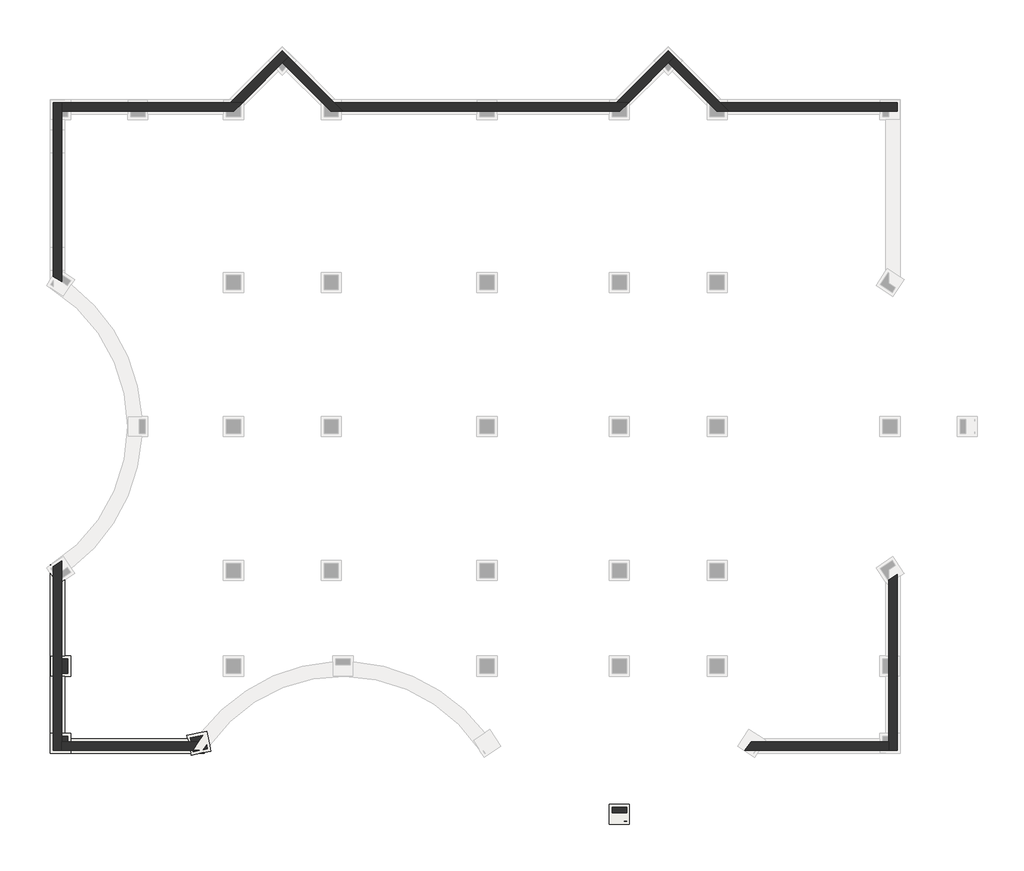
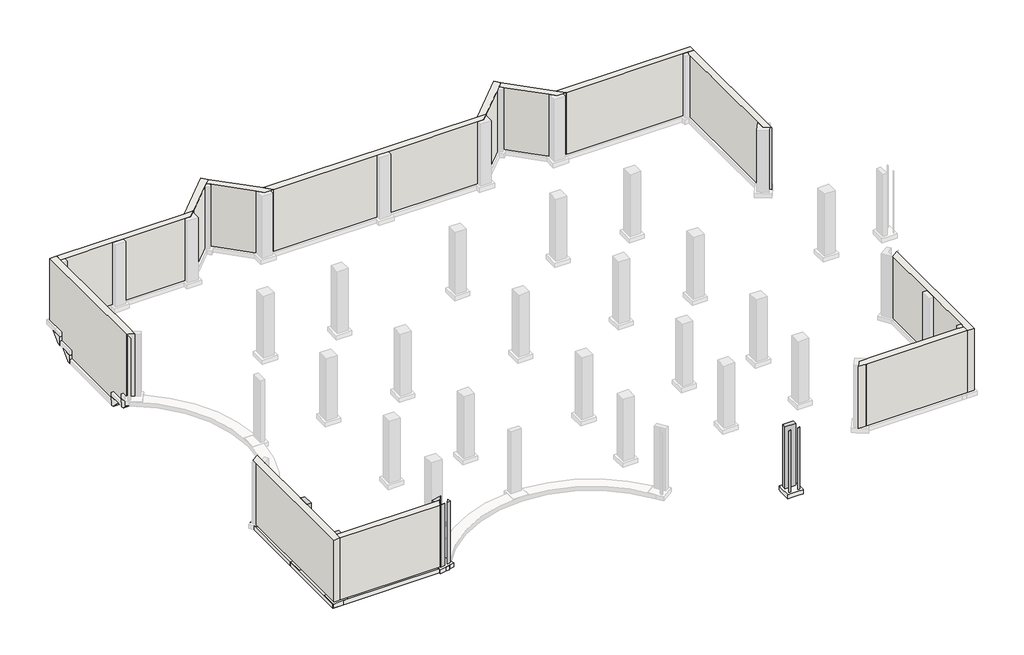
# One storey, part 1 of 3: 13 walls, 5 slabs, 4 columns, 2 footings.
"""IFC4 building model written with IfcOpenShell, lengths in millimetres."""

from ifc_helpers import new_model, si_unit, point, frame, frame_2d, origin, place, context, project, spatial, polyline, circle_curve, trimmed, segment, composite_curve, outline, extrude, faceted_brep, transform, mapped, element, save
from ifc_brep_helpers import plane_surface, revolved_surface, advanced_brep
from components import west_stepped_footing_west_stepped_footing_b48c4903

model = new_model("IFC4")

# Units and contexts
model_context = context("Model", 3, world=origin())
ifc_project = project(units=[si_unit("LENGTHUNIT", "METRE", prefix="MILLI")], contexts=[model_context])

# Site, building, storey
site = spatial("IfcSite", under=ifc_project)
building = spatial("IfcBuilding", under=site)
storey = spatial("IfcBuildingStorey", under=building, Name="00 T.O.FOOTING", Elevation=-4572.0)

# Columns
placement = place(None, origin())
element("IfcColumn", 1, ObjectType="M_Concrete-Rectangular-Column : 762 x 762mm", at=placement, inside=storey, context=model_context, shape_type="SweptSolid", body=[
    extrude(outline(polyline([(228.5, 536.575), (536.575, 536.575), (536.575, 228.5), (228.5, 228.5), (228.5, 536.575)])), frame((0.0, 0.0, -4572.0), z_axis=(0.0, 0.0, 1.0), x_axis=(1.0, 0.0, 0.0)), (0.0, 0.0, 1.0), 4572.0),
])
element("IfcColumn", 2, ObjectType="M_Concrete-Rectangular-Column : 762 x 762mm", at=placement, inside=storey, context=model_context, shape_type="SweptSolid", body=[
    extrude(outline(polyline([(536.575, 4625.575), (536.575, 3863.575), (228.5, 3863.575), (228.5, 4625.575), (536.575, 4625.575)])), frame((0.0, 0.0, -4572.0), z_axis=(0.0, 0.0, 1.0), x_axis=(1.0, 0.0, 0.0)), (0.0, 0.0, 1.0), 4572.0),
])
element("IfcColumn", 3, ObjectType="M_Concrete-Rectangular-Column : 762 x 762mm", at=placement, inside=storey, context=model_context, shape_type="SweptSolid", body=[
    extrude(outline(composite_curve([segment(polyline([(30092.5468913, -3977.7548318), (30092.5465403, -3982.4534576), (29961.8550106, -3982.4436956)]), True, "CONTINUOUS"), segment(trimmed(circle_curve(frame_2d((29712.2025257, 4799.7966199)), 8785.7880309), [point((29961.8550106, -3982.4436956))], [point((30092.5468913, -3977.7548318))], True, "CARTESIAN"), True, "CONTINUOUS")], self_intersect=False)), frame((0.0, 0.0, -4572.0), z_axis=(0.0, 0.0, 1.0), x_axis=(1.0, 0.0, 0.0)), (0.0, 0.0, 1.0), 4572.0),
    extrude(outline(composite_curve([segment(polyline([(29330.6034597, -3220.3965424), (30092.6034576, -3220.4534597), (30092.5810606, -3520.3008695)]), True, "CONTINUOUS"), segment(trimmed(circle_curve(frame_2d((29712.2025257, 4799.7966199)), 8328.7880309), [point((30092.5810606, -3520.3008695))], [point((29330.5810627, -3520.2439522))], False, "CARTESIAN"), True, "CONTINUOUS"), segment(polyline([(29330.5810627, -3520.2439522), (29330.6034597, -3220.3965424)]), True, "CONTINUOUS")], self_intersect=False)), frame((0.0, 0.0, -4572.0), z_axis=(0.0, 0.0, 1.0), x_axis=(1.0, 0.0, 0.0)), (0.0, 0.0, 1.0), 4572.0),
    extrude(outline(composite_curve([segment(polyline([(29330.5465424, -3982.3965403), (29330.5468934, -3977.6979145)]), True, "CONTINUOUS"), segment(trimmed(circle_curve(frame_2d((29712.2025257, 4799.7966199)), 8785.7880309), [point((29330.5468934, -3977.6979145))], [point((29461.2380721, -3982.4063023))], True, "CARTESIAN"), True, "CONTINUOUS"), segment(polyline([(29461.2380721, -3982.4063023), (29330.5465424, -3982.3965403)]), True, "CONTINUOUS")], self_intersect=False)), frame((0.0, 0.0, -4572.0), z_axis=(0.0, 0.0, 1.0), x_axis=(1.0, 0.0, 0.0)), (0.0, 0.0, 1.0), 4572.0),
])
element("IfcColumn", 4, ObjectType="M_Concrete-Rectangular-Column : 762 x 762mm", at=placement, inside=storey, context=model_context, shape_type="SweptSolid", body=[
    extrude(outline(polyline([(7495.2019987, -228.5), (7175.4949163, -295.2572794), (7161.5554867, -228.5), (7495.2019987, -228.5)])), frame((0.0, 0.0, -4572.0), z_axis=(0.0, 0.0, 1.0), x_axis=(1.0, 0.0, 0.0)), (0.0, 0.0, 1.0), 4572.0),
    extrude(outline(composite_curve([segment(polyline([(7019.7427206, 450.6550837), (7686.4160603, 589.8615664)]), True, "CONTINUOUS"), segment(trimmed(circle_curve(frame_2d((15090.775, -4898.9611805)), 9216.925), [point((7686.4160603, 589.8615664))], [point((7431.7379654, 228.5))], True, "CARTESIAN"), True, "CONTINUOUS"), segment(polyline([(7431.7379654, 228.5), (7066.130398, 228.5), (7019.7427206, 450.6550837)]), True, "CONTINUOUS")], self_intersect=False)), frame((0.0, 0.0, -4572.0), z_axis=(0.0, 0.0, 1.0), x_axis=(1.0, 0.0, 0.0)), (0.0, 0.0, 1.0), 4572.0),
    extrude(outline(composite_curve([segment(polyline([(7877.3918187, 71.2892242), (7921.4072794, -139.5050837), (7707.946534, -184.0773169)]), True, "CONTINUOUS"), segment(trimmed(circle_curve(frame_2d((15090.775, -4898.9611805)), 8759.925), [point((7707.946534, -184.0773169))], [point((7877.3918187, 71.2892242))], False, "CARTESIAN"), True, "CONTINUOUS")], self_intersect=False)), frame((0.0, 0.0, -4572.0), z_axis=(0.0, 0.0, 1.0), x_axis=(1.0, 0.0, 0.0)), (0.0, 0.0, 1.0), 4572.0),
])

# Footings
element("IfcFooting", 5, ObjectType="Bearing Footing - 762 x 305", at=placement, inside=storey, context=model_context, shape_type="SweptSolid", body=[
    extrude(outline(polyline([(381.0, -381.0), (-381.0, -381.0), (-381.0, 9143.3544346), (5.8948876, 8560.0884457), (381.0, 8808.9050287), (381.0, 4778.075), (-377.925, 4778.075), (-377.925, 3711.075), (381.0, 3711.075), (381.0, 689.075), (-377.925, 689.075), (-377.925, -377.925), (381.0, -377.925), (381.0, -381.0)])), frame((0.0, 0.0, -4877.0), z_axis=(0.0, 0.0, 1.0), x_axis=(1.0, 0.0, 0.0)), (0.0, 0.0, 1.0), 305.0),
    extrude(outline(polyline([(-381.0, 9583.8514106), (-381.0, 9593.198549), (-373.2506488, 9588.9917487), (-381.0, 9583.8514106)])), frame((0.0, 0.0, -4877.0), z_axis=(0.0, 0.0, 1.0), x_axis=(1.0, 0.0, 0.0)), (0.0, 0.0, 1.0), 305.0),
])
element("IfcFooting", 6, ObjectType="Bearing Footing - 762 x 305", at=placement, inside=storey, context=model_context, shape_type="SweptSolid", body=[
    extrude(outline(polyline([(381.0, -381.0), (381.0, -377.925), (689.075, -377.925), (689.075, 381.0), (6878.4981549, 381.0), (7037.609572, -381.0), (381.0, -381.0)])), frame((0.0, 0.0, -4877.0), z_axis=(0.0, 0.0, 1.0), x_axis=(1.0, 0.0, 0.0)), (0.0, 0.0, 1.0), 305.0),
    extrude(outline(polyline([(7738.5947592, -333.4668124), (7764.398549, -381.0), (7510.9537164, -381.0), (7738.5947592, -333.4668124)])), frame((0.0, 0.0, -4877.0), z_axis=(0.0, 0.0, 1.0), x_axis=(1.0, 0.0, 0.0)), (0.0, 0.0, 1.0), 305.0),
])

# Slabs
element("IfcSlab", 7, ObjectType="M_Footing-Rectangular : 1067 x 1067 x 305mm", at=placement, inside=storey, context=model_context, shape_type="Brep", body=[
    faceted_brep([(689.075, 689.075, -4572.0), (381.0, 689.075, -4572.0), (-377.925, 689.075, -4572.0), (-377.925, -377.925, -4572.0), (381.0, -377.925, -4572.0), (689.075, -377.925, -4572.0), (689.075, 381.0, -4572.0), (689.075, 689.075, -4877.0), (689.075, 381.0, -4877.0), (689.075, -377.925, -4877.0), (381.0, -377.925, -4877.0), (-377.925, -377.925, -4877.0), (-377.925, 689.075, -4877.0), (381.0, 689.075, -4877.0)], [[[0, 1, 2, 3, 4, 5, 6]], [[7, 8, 9, 10, 11, 12, 13]], [[2, 1, 0, 7, 13, 12]], [[3, 2, 12, 11]], [[5, 4, 3, 11, 10, 9]], [[0, 6, 5, 9, 8, 7]]]),
])
element("IfcSlab", 8, ObjectType="M_Footing-Rectangular : 1067 x 1067 x 305mm", at=placement, inside=storey, context=model_context, shape_type="Brep", body=[
    faceted_brep([(689.075, 4778.075, -4572.0), (381.0, 4778.075, -4572.0), (-377.925, 4778.075, -4572.0), (-377.925, 3711.075, -4572.0), (381.0, 3711.075, -4572.0), (689.075, 3711.075, -4572.0), (689.075, 4778.075, -4877.0), (689.075, 3711.075, -4877.0), (381.0, 3711.075, -4877.0), (-377.925, 3711.075, -4877.0), (-377.925, 4778.075, -4877.0), (381.0, 4778.075, -4877.0)], [[[0, 1, 2, 3, 4, 5]], [[6, 7, 8, 9, 10, 11]], [[2, 1, 0, 6, 11, 10]], [[3, 2, 10, 9]], [[5, 4, 3, 9, 8, 7]], [[0, 5, 7, 6]]]),
])
element("IfcSlab", 9, ObjectType="M_Footing-Rectangular : 1067 x 1067 x 305mm", at=placement, inside=storey, context=model_context, shape_type="Brep", body=[
    faceted_brep([(29178.0351519, -4134.885149, -4572.0), (29459.0632155, -4134.9061402, -4572.0), (29964.0070854, -4134.9438568, -4572.0), (30245.035149, -4134.9648481, -4572.0), (30245.0360729, -4122.5955108, -4572.0), (30245.0931013, -3359.107326, -4572.0), (30245.1148481, -3067.964851, -4572.0), (29178.114851, -3067.8851519, -4572.0), (29178.0931043, -3359.0276268, -4572.0), (29178.0360759, -4122.5158116, -4572.0), (29178.0351519, -4134.885149, -4877.0), (29178.0360759, -4122.5158116, -4877.0), (29178.0931043, -3359.0276268, -4877.0), (29178.114851, -3067.8851519, -4877.0), (30245.1148481, -3067.964851, -4877.0), (30245.0931013, -3359.107326, -4877.0), (30245.0360729, -4122.5955108, -4877.0), (30245.035149, -4134.9648481, -4877.0), (29964.0070854, -4134.9438568, -4877.0), (29459.0632155, -4134.9061402, -4877.0)], [[[0, 1, 2, 3, 4, 5, 6, 7, 8, 9]], [[10, 11, 12, 13, 14, 15, 16, 17, 18, 19]], [[3, 2, 1, 0, 10, 19, 18, 17]], [[6, 5, 4, 3, 17, 16, 15, 14]], [[7, 6, 14, 13]], [[0, 9, 8, 7, 13, 12, 11, 10]]]),
])
element("IfcSlab", 10, ObjectType="M_Footing-Rectangular : 1067 x 1067 x 305mm", at=placement, inside=storey, context=model_context, shape_type="Brep", body=[
    faceted_brep([(6839.2914801, 568.7645661, -4572.0), (6878.4981549, 381.0, -4572.0), (7037.609572, -381.0, -4572.0), (7057.3854339, -475.7085199, -4572.0), (7510.9537164, -381.0, -4572.0), (7738.5947592, -333.4668124, -4572.0), (7802.2589542, -320.1732425, -4572.0), (8101.8585199, -257.6145661, -4572.0), (8040.0893954, 38.2037586, -4572.0), (7883.7645661, 786.8585199, -4572.0), (7598.7213809, 727.3393268, -4572.0), (6839.2914801, 568.7645661, -4877.0), (7598.7213809, 727.3393268, -4877.0), (7883.7645661, 786.8585199, -4877.0), (8040.0893954, 38.2037586, -4877.0), (8101.8585199, -257.6145661, -4877.0), (7802.2589542, -320.1732425, -4877.0), (7738.5947592, -333.4668124, -4877.0), (7510.9537164, -381.0, -4877.0), (7057.3854339, -475.7085199, -4877.0), (7037.609572, -381.0, -4877.0), (6878.4981549, 381.0, -4877.0)], [[[0, 1, 2, 3, 4, 5, 6, 7, 8, 9, 10]], [[11, 12, 13, 14, 15, 16, 17, 18, 19, 20, 21]], [[3, 2, 1, 0, 11, 21, 20, 19]], [[7, 6, 5, 4, 3, 19, 18, 17, 16, 15]], [[9, 8, 7, 15, 14, 13]], [[0, 10, 9, 13, 12, 11]]]),
])
west_stepped_footing_west_stepped_footing_shape = west_stepped_footing_west_stepped_footing_b48c4903(model_context)
element("IfcSlab", 11, ObjectType="West Stepped Footing : West Stepped Footing", at=placement, inside=storey, context=model_context, shape_type="MappedRepresentation", body=[
    mapped(west_stepped_footing_west_stepped_footing_shape, transform((0.0, 0.0, 0.0), x_axis=(1.0, 0.0, 0.0), y_axis=(0.0, 1.0, 0.0), z_axis=(0.0, 0.0, 1.0))),
])

# Walls
element("IfcWall", 12, ObjectType="Foundation - 457mm Concrete", at=placement, inside=storey, context=model_context, shape_type="AdvancedBrep", body=[
    advanced_brep(
    [(228.5, -228.5, -4572.0), (228.5, 228.5, -4572.0), (228.5, 536.575, -4572.0), (228.5, 3863.575, -4572.0), (228.5, 4625.575, -4572.0), (228.5, 8890.7479726, -4572.0), (228.5, 9260.5379654, -4572.0), (228.5, 9817.0805193, -4572.0), (228.5, 9817.0805193, 0.0), (228.5, 9260.5379654, 0.0), (228.5, 8890.7479726, 0.0), (228.5, 4625.575, 0.0), (228.5, 3863.575, 0.0), (228.5, 536.575, 0.0), (228.5, 228.5, 0.0), (228.5, -228.5, 0.0), (-228.5, -228.5, -4572.0), (-228.5, -228.5, 0.0), (-228.5, 9189.3349146, 0.0), (-228.5, 9502.0084667, 0.0), (-228.5, 9508.5643829, 0.0), (-228.5, 9508.5643829, -4572.0), (-228.5, 9502.0084667, -4572.0), (-228.5, 9189.3349146, -4572.0)],
    [
        (0, 1),
        (1, 2),
        (2, 3),
        (3, 4),
        (4, 5),
        (5, 6),
        (6, 7),
        (7, 8),
        (8, 9),
        (9, 10),
        (10, 11),
        (11, 12),
        (12, 13),
        (13, 14),
        (14, 15),
        (15, 0),
        (16, 17),
        (17, 18),
        (18, 19),
        (19, 20),
        (20, 21),
        (21, 22),
        (22, 23),
        (23, 16),
        (0, 16),
        (21, 7, circle_curve(frame((-4898.9611805, 16919.575, -4572.0), z_axis=(0.0, 0.0, 1.0), x_axis=(1.0, 0.0, 0.0)), 8759.925)),
        (8, 20, circle_curve(frame((-4898.9611805, 16919.575, 0.0), z_axis=(0.0, 0.0, -1.0), x_axis=(1.0, 0.0, 0.0)), 8759.925)),
        (17, 15),
    ],
    [
        plane_surface(frame((228.5, 0.0, -4572.0), z_axis=(1.0, 0.0, 0.0), x_axis=(0.0, 1.0, 0.0))),
        plane_surface(frame((-228.5, 0.0, -4572.0), z_axis=(-1.0, 0.0, 0.0), x_axis=(0.0, -1.0, 0.0))),
        plane_surface(frame((228.5, 0.0, -4572.0), z_axis=(0.0, 0.0, -1.0), x_axis=(-1.0, 0.0, 0.0))),
        plane_surface(frame((228.5, 9383.5307238, 0.0), z_axis=(0.0, 0.0, 1.0), x_axis=(-1.0, 0.0, 0.0))),
        revolved_surface(polyline([(3860.963819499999, 16919.575, -4572.0), (3860.963819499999, 16919.575, 0.0)]), (-4898.9611805, 16919.575, -4572.0), (0.0, 0.0, -1.0)),
        plane_surface(frame((7554.7307238, -228.5, -4572.0), z_axis=(0.0, -1.0, 0.0), x_axis=(1.0, 0.0, 0.0))),
    ],
    [
        (0, [[1, 2, 3, 4, 5, 6, 7, 8, 9, 10, 11, 12, 13, 14, 15, 16]]),
        (1, [[17, 18, 19, 20, 21, 22, 23, 24]]),
        (2, [[-7, -6, -5, -4, -3, -2, -1, 25, -24, -23, -22, 26]]),
        (3, [[-15, -14, -13, -12, -11, -10, -9, 27, -20, -19, -18, 28]]),
        (4, [[-8, -26, -21, -27]]),
        (5, [[-16, -28, -17, -25]]),
    ],
),
])
element("IfcWall", 13, ObjectType="Foundation - 457mm Concrete", at=placement, inside=storey, context=model_context, shape_type="AdvancedBrep", body=[
    advanced_brep(
    [(228.5, 24578.6120346, -4572.0), (228.5, 24948.4020274, -4572.0), (228.5, 25169.9586136, -4572.0), (228.5, 25169.9586136, -5182.0), (228.5, 26388.9586136, -5182.0), (228.5, 26388.9586136, -5792.0), (228.5, 31401.15, -5792.0), (228.5, 31401.15, -5182.0), (228.5, 32620.15, -5182.0), (228.5, 32620.15, -4572.0), (228.5, 33302.575, -4572.0), (228.5, 33610.65, -4572.0), (228.5, 34067.65, -4572.0), (228.5, 34067.65, 0.0), (228.5, 33610.65, 0.0), (228.5, 33302.575, 0.0), (228.5, 24948.4020274, 0.0), (228.5, 24578.6120346, 0.0), (-228.5, 24865.5487488, -4572.0), (-228.5, 24865.5487488, 0.0), (-228.5, 34067.65, 0.0), (-228.5, 34067.65, -4572.0), (-228.5, 32620.15, -4572.0), (-228.5, 32620.15, -5182.0), (-228.5, 31401.15, -5182.0), (-228.5, 31401.15, -5792.0), (-228.5, 26388.9586136, -5792.0), (-228.5, 26388.9586136, -5182.0), (-228.5, 25169.9586136, -5182.0), (-228.5, 25169.9586136, -4572.0)],
    [
        (0, 1),
        (1, 2),
        (2, 3),
        (3, 4),
        (4, 5),
        (5, 6),
        (6, 7),
        (7, 8),
        (8, 9),
        (9, 10),
        (10, 11),
        (11, 12),
        (12, 13),
        (13, 14),
        (14, 15),
        (15, 16),
        (16, 17),
        (17, 0),
        (18, 19),
        (19, 20),
        (20, 21),
        (21, 22),
        (22, 23),
        (23, 24),
        (24, 25),
        (25, 26),
        (26, 27),
        (27, 28),
        (28, 29),
        (29, 18),
        (17, 19, circle_curve(frame((-4898.9611805, 16919.575, 0.0), z_axis=(0.0, 0.0, 1.0), x_axis=(1.0, 0.0, 0.0)), 9216.925)),
        (18, 0, circle_curve(frame((-4898.9611805, 16919.575, -4572.0), z_axis=(0.0, 0.0, -1.0), x_axis=(1.0, 0.0, 0.0)), 9216.925)),
        (12, 21),
        (20, 13),
        (9, 22),
        (29, 2),
        (28, 3),
        (27, 4),
        (26, 5),
        (25, 6),
        (24, 7),
        (23, 8),
    ],
    [
        plane_surface(frame((228.5, 33334.4893374, -4572.0), z_axis=(1.0, 0.0, 0.0), x_axis=(0.0, 1.0, 0.0))),
        plane_surface(frame((-228.5, 33334.4893374, -4572.0), z_axis=(-1.0, 0.0, 0.0), x_axis=(0.0, -1.0, 0.0))),
        revolved_surface(polyline([(4317.963819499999, 16919.575, 0.0), (4317.963819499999, 16919.575, -4572.0)]), (-4898.9611805, 16919.575, -4572.0), (0.0, 0.0, 1.0)),
        plane_surface(frame((0.0, 34067.65, -4572.0), z_axis=(0.0, 1.0, 0.0), x_axis=(-1.0, 0.0, 0.0))),
        plane_surface(frame((228.5, 32620.15, -4572.0), z_axis=(0.0, 0.0, -1.0), x_axis=(-1.0, 0.0, 0.0))),
        plane_surface(frame((228.5, 33839.15, 0.0), z_axis=(0.0, 0.0, 1.0), x_axis=(-1.0, 0.0, 0.0))),
        plane_surface(frame((228.5, 24455.6192762, -4572.0), z_axis=(0.0, 0.0, -1.0), x_axis=(-1.0, 0.0, 0.0))),
        plane_surface(frame((228.5, 25169.9586136, -4572.0), z_axis=(0.0, -1.0, 0.0), x_axis=(-1.0, 0.0, 0.0))),
        plane_surface(frame((228.5, 25169.9586136, -5182.0), z_axis=(0.0, 0.0, -1.0), x_axis=(-1.0, 0.0, 0.0))),
        plane_surface(frame((228.5, 26388.9586136, -5182.0), z_axis=(0.0, -1.0, 0.0), x_axis=(-1.0, 0.0, 0.0))),
        plane_surface(frame((228.5, 26388.9586136, -5792.0), z_axis=(0.0, 0.0, -1.0), x_axis=(-1.0, 0.0, 0.0))),
        plane_surface(frame((228.5, 31401.15, -5792.0), z_axis=(0.0, 1.0, 0.0), x_axis=(-1.0, 0.0, 0.0))),
        plane_surface(frame((228.5, 31401.15, -5182.0), z_axis=(0.0, 0.0, -1.0), x_axis=(-1.0, 0.0, 0.0))),
        plane_surface(frame((228.5, 32620.15, -5182.0), z_axis=(0.0, 1.0, 0.0), x_axis=(-1.0, 0.0, 0.0))),
    ],
    [
        (0, [[1, 2, 3, 4, 5, 6, 7, 8, 9, 10, 11, 12, 13, 14, 15, 16, 17, 18]]),
        (1, [[19, 20, 21, 22, 23, 24, 25, 26, 27, 28, 29, 30]]),
        (2, [[-18, 31, -19, 32]]),
        (3, [[-13, 33, -21, 34]]),
        (4, [[-12, -11, -10, 35, -22, -33]]),
        (5, [[-17, -16, -15, -14, -34, -20, -31]]),
        (6, [[-2, -1, -32, -30, 36]]),
        (7, [[-3, -36, -29, 37]]),
        (8, [[-4, -37, -28, 38]]),
        (9, [[-5, -38, -27, 39]]),
        (10, [[-6, -39, -26, 40]]),
        (11, [[-7, -40, -25, 41]]),
        (12, [[-8, -41, -24, 42]]),
        (13, [[-9, -42, -23, -35]]),
    ],
),
])
element("IfcWall", 14, ObjectType="Foundation - 457mm Concrete", at=placement, inside=storey, context=model_context, shape_type="Brep", body=[
    faceted_brep([(228.5, 33610.65, -4572.0), (536.575, 33610.65, -4572.0), (3863.575, 33610.65, -4572.0), (4625.575, 33610.65, -4572.0), (8918.575, 33610.65, -4572.0), (9329.781524, 33610.65, -4572.0), (9329.781524, 33610.65, 0.0), (8918.575, 33610.65, 0.0), (4625.575, 33610.65, 0.0), (3863.575, 33610.65, 0.0), (536.575, 33610.65, 0.0), (228.5, 33610.65, 0.0), (228.5, 34067.65, -4572.0), (228.5, 34067.65, 0.0), (9140.485926, 34067.65, 0.0), (9786.781524, 34067.65, 0.0), (9786.781524, 34067.65, -4572.0), (9140.485926, 34067.65, -4572.0), (9680.575, 33961.443476, -4572.0), (9680.575, 33961.443476, 0.0)], [[[0, 1, 2, 3, 4, 5, 6, 7, 8, 9, 10, 11]], [[12, 13, 14, 15, 16, 17]], [[5, 4, 3, 2, 1, 0, 12, 17, 16, 18]], [[11, 10, 9, 8, 7, 6, 19, 15, 14, 13]], [[0, 11, 13, 12]], [[6, 5, 18, 16, 15, 19]]]),
])
element("IfcWall", 15, ObjectType="Foundation - 457mm Concrete", at=placement, inside=storey, context=model_context, shape_type="Brep", body=[
    faceted_brep([(9786.781524, 34067.65, -4572.0), (11667.7330784, 35948.6015543, -4572.0), (11885.8887629, 36166.7572388, -4572.0), (12209.0365619, 36489.9050378, -4572.0), (12209.0365619, 36489.9050378, 0.0), (11885.8887629, 36166.7572388, 0.0), (11667.7330784, 35948.6015543, 0.0), (9786.781524, 34067.65, 0.0), (9140.485926, 34067.65, -4572.0), (9140.485926, 34067.65, 0.0), (11885.8887629, 36813.0528368, 0.0), (11885.8887629, 36813.0528368, -4572.0)], [[[0, 1, 2, 3, 4, 5, 6, 7]], [[8, 9, 10, 11]], [[3, 2, 1, 0, 8, 11]], [[7, 6, 5, 4, 10, 9]], [[0, 7, 9, 8]], [[4, 3, 11, 10]]]),
])
element("IfcWall", 16, ObjectType="Foundation - 457mm Concrete", at=placement, inside=storey, context=model_context, shape_type="Brep", body=[
    faceted_brep([(11885.8887629, 36166.7572388, -4572.0), (12103.7306845, 35948.9153172, -4572.0), (14090.575, 33962.0710017, -4572.0), (14441.9960017, 33610.65, -4572.0), (14441.9960017, 33610.65, 0.0), (14090.575, 33962.0710017, 0.0), (12103.7306845, 35948.9153172, 0.0), (11885.8887629, 36166.7572388, 0.0), (12209.0365619, 36489.9050378, -4572.0), (12209.0365619, 36489.9050378, 0.0), (14631.2915997, 34067.65, 0.0), (15088.2915997, 33610.65, 0.0), (15088.2915997, 33610.65, -4572.0), (14631.2915997, 34067.65, -4572.0), (14852.575, 33610.65, -4572.0), (14852.575, 33610.65, 0.0)], [[[0, 1, 2, 3, 4, 5, 6, 7]], [[8, 9, 10, 11, 12, 13]], [[3, 2, 1, 0, 8, 13, 12, 14]], [[7, 6, 5, 4, 15, 11, 10, 9]], [[0, 7, 9, 8]], [[4, 3, 14, 12, 11, 15]]]),
])
element("IfcWall", 17, ObjectType="Foundation - 457mm Concrete", at=placement, inside=storey, context=model_context, shape_type="Brep", body=[
    faceted_brep([(15088.2915997, 33610.65, -4572.0), (22329.575, 33610.65, -4572.0), (23091.575, 33610.65, -4572.0), (29330.575, 33610.65, -4572.0), (29742.4090498, 33610.65, -4572.0), (29742.4090498, 33610.65, 0.0), (29330.575, 33610.65, 0.0), (23091.575, 33610.65, 0.0), (22329.575, 33610.65, 0.0), (15088.2915997, 33610.65, 0.0), (14631.2915997, 34067.65, -4572.0), (14631.2915997, 34067.65, 0.0), (29553.1134518, 34067.65, 0.0), (30199.4090498, 34067.65, 0.0), (30199.4090498, 34067.65, -4572.0), (29553.1134518, 34067.65, -4572.0), (30092.575, 33960.8159502, -4572.0), (30092.575, 33960.8159502, 0.0)], [[[0, 1, 2, 3, 4, 5, 6, 7, 8, 9]], [[10, 11, 12, 13, 14, 15]], [[4, 3, 2, 1, 0, 10, 15, 14, 16]], [[9, 8, 7, 6, 5, 17, 13, 12, 11]], [[0, 9, 11, 10]], [[5, 4, 16, 14, 13, 17]]]),
])
element("IfcWall", 18, ObjectType="Foundation - 457mm Concrete", at=placement, inside=storey, context=model_context, shape_type="Brep", body=[
    faceted_brep([(30199.4090498, 34067.65, -4572.0), (32080.0468413, 35948.2877915, -4572.0), (32298.5162886, 36166.7572388, -4572.0), (32621.6640876, 36489.9050378, -4572.0), (32621.6640876, 36489.9050378, 0.0), (32298.5162886, 36166.7572388, 0.0), (32080.0468413, 35948.2877915, 0.0), (30199.4090498, 34067.65, 0.0), (29553.1134518, 34067.65, -4572.0), (29553.1134518, 34067.65, 0.0), (32298.5162886, 36813.0528368, 0.0), (32298.5162886, 36813.0528368, -4572.0)], [[[0, 1, 2, 3, 4, 5, 6, 7]], [[8, 9, 10, 11]], [[3, 2, 1, 0, 8, 11]], [[7, 6, 5, 4, 10, 9]], [[0, 7, 9, 8]], [[4, 3, 11, 10]]]),
])
element("IfcWall", 19, ObjectType="Foundation - 457mm Concrete", at=placement, inside=storey, context=model_context, shape_type="Brep", body=[
    faceted_brep([(32298.5162886, 36166.7572388, -4572.0), (32516.0444474, 35949.2290801, -4572.0), (34502.575, 33962.6985274, -4572.0), (34854.6235274, 33610.65, -4572.0), (34854.6235274, 33610.65, 0.0), (34502.575, 33962.6985274, 0.0), (32516.0444474, 35949.2290801, 0.0), (32298.5162886, 36166.7572388, 0.0), (32621.6640876, 36489.9050378, -4572.0), (32621.6640876, 36489.9050378, 0.0), (35043.9191254, 34067.65, 0.0), (35500.9191254, 33610.65, 0.0), (35500.9191254, 33610.65, -4572.0), (35043.9191254, 34067.65, -4572.0), (35264.575, 33610.65, -4572.0), (35264.575, 33610.65, 0.0)], [[[0, 1, 2, 3, 4, 5, 6, 7]], [[8, 9, 10, 11, 12, 13]], [[3, 2, 1, 0, 8, 13, 12, 14]], [[7, 6, 5, 4, 15, 11, 10, 9]], [[0, 7, 9, 8]], [[4, 3, 14, 12, 11, 15]]]),
])
element("IfcWall", 20, ObjectType="Foundation - 457mm Concrete", at=placement, inside=storey, context=model_context, shape_type="Brep", body=[
    faceted_brep([(35500.9191254, 33610.65, -4572.0), (43646.575, 33610.65, -4572.0), (43955.9050515, 33610.65, -4572.0), (44412.9050515, 33610.65, -4572.0), (44412.9050515, 33610.65, 0.0), (43955.9050515, 33610.65, 0.0), (43646.575, 33610.65, 0.0), (35500.9191254, 33610.65, 0.0), (35043.9191254, 34067.65, -4572.0), (35043.9191254, 34067.65, 0.0), (44412.9050515, 34067.65, 0.0), (44412.9050515, 34067.65, -4572.0)], [[[0, 1, 2, 3, 4, 5, 6, 7]], [[8, 9, 10, 11]], [[3, 2, 1, 0, 8, 11]], [[7, 6, 5, 4, 10, 9]], [[0, 7, 9, 8]], [[4, 3, 11, 10]]]),
])
element("IfcWall", 21, ObjectType="Foundation - 457mm Concrete", at=placement, inside=storey, context=model_context, shape_type="AdvancedBrep", body=[
    advanced_brep(
    [(43955.9050515, 33610.65, -4572.0), (43955.9050515, 33302.575, -4572.0), (43955.9050515, 25044.2689764, -4572.0), (43955.9050515, 24500.3369473, -4572.0), (43955.9050515, 24500.3369473, 0.0), (43955.9050515, 25044.2689764, 0.0), (43955.9050515, 33302.575, 0.0), (43955.9050515, 33610.65, 0.0), (44412.9050515, 33610.65, -4572.0), (44412.9050515, 33610.65, 0.0), (44412.9050515, 24742.9835687, 0.0), (44412.9050515, 24179.4586136, 0.0), (44412.9050515, 24179.4586136, -4572.0), (44412.9050515, 24742.9835687, -4572.0), (44300.7410299, 24262.146678, -4572.0), (44300.7410299, 24262.146678, 0.0)],
    [
        (0, 1),
        (1, 2),
        (2, 3),
        (3, 4),
        (4, 5),
        (5, 6),
        (6, 7),
        (7, 0),
        (8, 9),
        (9, 10),
        (10, 11),
        (11, 12),
        (12, 13),
        (13, 8),
        (0, 8),
        (12, 14, circle_curve(frame((38974.293871, 16919.575, -4572.0), z_axis=(0.0, 0.0, 1.0), x_axis=(1.0, 0.0, 0.0)), 9071.075)),
        (14, 3, circle_curve(frame((38974.293871, 16919.575, -4572.0), z_axis=(0.0, 0.0, 1.0), x_axis=(1.0, 0.0, 0.0)), 9071.0748086)),
        (4, 15, circle_curve(frame((38974.293871, 16919.575, 0.0), z_axis=(0.0, 0.0, -1.0), x_axis=(1.0, 0.0, 0.0)), 9071.075)),
        (15, 11, circle_curve(frame((38974.293871, 16919.575, 0.0), z_axis=(0.0, 0.0, -1.0), x_axis=(1.0, 0.0, 0.0)), 9071.0748086)),
        (9, 7),
    ],
    [
        plane_surface(frame((43955.9050515, 33839.15, -4572.0), z_axis=(-1.0, 0.0, 0.0), x_axis=(0.0, -1.0, 0.0))),
        plane_surface(frame((44412.9050515, 33839.15, -4572.0), z_axis=(1.0, 0.0, 0.0), x_axis=(0.0, 1.0, 0.0))),
        plane_surface(frame((43955.9050515, 33839.15, -4572.0), z_axis=(0.0, 0.0, -1.0), x_axis=(1.0, 0.0, 0.0))),
        plane_surface(frame((43955.9050515, 24622.6157416, 0.0), z_axis=(0.0, 0.0, 1.0), x_axis=(1.0, 0.0, 0.0))),
        plane_surface(frame((34949.2713264, 33610.65, -4572.0), z_axis=(0.0, 1.0, 0.0), x_axis=(1.0, 0.0, 0.0))),
        revolved_surface(polyline([(48045.368871, 16919.575, -4572.0), (48045.368871, 16919.575, 0.0)]), (38974.293871, 16919.575, -4572.0), (0.0, 0.0, -1.0)),
    ],
    [
        (0, [[1, 2, 3, 4, 5, 6, 7, 8]]),
        (1, [[9, 10, 11, 12, 13, 14]]),
        (2, [[-3, -2, -1, 15, -14, -13, 16, 17]]),
        (3, [[-7, -6, -5, 18, 19, -11, -10, 20]]),
        (4, [[-8, -20, -9, -15]]),
        (5, [[-4, -17, -16, -12, -19, -18]]),
    ],
),
])
element("IfcWall", 22, ObjectType="Foundation - 457mm Concrete", at=placement, inside=storey, context=model_context, shape_type="AdvancedBrep", body=[
    advanced_brep(
    [(43955.9050515, 8797.5208724, -4572.0), (43955.9050515, 8794.8810236, -4572.0), (43955.9050515, 4625.575, -4572.0), (43955.9050515, 3863.575, -4572.0), (43955.9050515, 536.575, -4572.0), (43955.9050515, 228.5, -4572.0), (43955.9050515, -228.5, -4572.0), (43955.9050515, -228.5, 0.0), (43955.9050515, 228.5, 0.0), (43955.9050515, 536.575, 0.0), (43955.9050515, 3863.575, 0.0), (43955.9050515, 4625.575, 0.0), (43955.9050515, 8794.8810236, 0.0), (43955.9050515, 8797.5208724, 0.0), (44412.9050515, 9096.1664313, -4572.0), (44412.9050515, 9096.1664313, 0.0), (44412.9050515, -228.5, 0.0), (44412.9050515, -228.5, -4572.0)],
    [
        (0, 1),
        (1, 2),
        (2, 3),
        (3, 4),
        (4, 5),
        (5, 6),
        (6, 7),
        (7, 8),
        (8, 9),
        (9, 10),
        (10, 11),
        (11, 12),
        (12, 13),
        (13, 0),
        (14, 15),
        (15, 16),
        (16, 17),
        (17, 14),
        (0, 14, circle_curve(frame((38974.293871, 16919.575, -4572.0), z_axis=(0.0, 0.0, 1.0), x_axis=(1.0, 0.0, 0.0)), 9528.075)),
        (17, 6),
        (7, 16),
        (15, 13, circle_curve(frame((38974.293871, 16919.575, 0.0), z_axis=(0.0, 0.0, -1.0), x_axis=(1.0, 0.0, 0.0)), 9528.075)),
    ],
    [
        plane_surface(frame((43955.9050515, 9216.5342584, -4572.0), z_axis=(-1.0, 0.0, 0.0), x_axis=(0.0, -1.0, 0.0))),
        plane_surface(frame((44412.9050515, 9216.5342584, -4572.0), z_axis=(1.0, 0.0, 0.0), x_axis=(0.0, 1.0, 0.0))),
        plane_surface(frame((43955.9050515, 9216.5342584, -4572.0), z_axis=(0.0, 0.0, -1.0), x_axis=(1.0, 0.0, 0.0))),
        plane_surface(frame((43955.9050515, 0.0, 0.0), z_axis=(0.0, 0.0, 1.0), x_axis=(1.0, 0.0, 0.0))),
        revolved_surface(polyline([(48502.368871, 16919.575, 0.0), (48502.368871, 16919.575, -4572.0)]), (38974.293871, 16919.575, -4572.0), (0.0, 0.0, 1.0)),
        plane_surface(frame((44184.4050515, -228.5, -4572.0), z_axis=(0.0, -1.0, 0.0), x_axis=(1.0, 0.0, 0.0))),
    ],
    [
        (0, [[1, 2, 3, 4, 5, 6, 7, 8, 9, 10, 11, 12, 13, 14]]),
        (1, [[15, 16, 17, 18]]),
        (2, [[-6, -5, -4, -3, -2, -1, 19, -18, 20]]),
        (3, [[-13, -12, -11, -10, -9, -8, 21, -16, 22]]),
        (4, [[-14, -22, -15, -19]]),
        (5, [[-7, -20, -17, -21]]),
    ],
),
])
element("IfcWall", 23, ObjectType="Foundation - 457mm Concrete", at=placement, inside=storey, context=model_context, shape_type="AdvancedBrep", body=[
    advanced_brep(
    [(43955.9050515, 228.5, -4572.0), (43646.575, 228.5, -4572.0), (37222.0689069, 228.5, -4572.0), (36674.383023, 228.5, -4572.0), (36674.383023, 228.5, 0.0), (37222.0689069, 228.5, 0.0), (43646.575, 228.5, 0.0), (43955.9050515, 228.5, 0.0), (43955.9050515, -228.5, -4572.0), (43955.9050515, -228.5, 0.0), (36919.0568544, -228.5, 0.0), (36916.8055284, -228.5, 0.0), (36351.8518512, -228.5, 0.0), (36351.8518512, -228.5, -4572.0), (36916.8055284, -228.5, -4572.0), (36919.0568544, -228.5, -4572.0), (36435.9513542, -115.4762777, -4572.0), (36435.9513542, -115.4762777, 0.0)],
    [
        (0, 1),
        (1, 2),
        (2, 3),
        (3, 4),
        (4, 5),
        (5, 6),
        (6, 7),
        (7, 0),
        (8, 9),
        (9, 10),
        (10, 11),
        (11, 12),
        (12, 13),
        (13, 14),
        (14, 15),
        (15, 8),
        (0, 8),
        (13, 16, circle_curve(frame((29712.2025257, 4799.7966199, -4572.0), z_axis=(0.0, 0.0, 1.0), x_axis=(1.0, 0.0, 0.0)), 8328.7880309)),
        (16, 3, circle_curve(frame((29712.2025257, 4799.7966199, -4572.0), z_axis=(0.0, 0.0, 1.0), x_axis=(1.0, 0.0, 0.0)), 8328.7877849)),
        (4, 17, circle_curve(frame((29712.2025257, 4799.7966199, 0.0), z_axis=(0.0, 0.0, -1.0), x_axis=(1.0, 0.0, 0.0)), 8328.7880309)),
        (17, 12, circle_curve(frame((29712.2025257, 4799.7966199, 0.0), z_axis=(0.0, 0.0, -1.0), x_axis=(1.0, 0.0, 0.0)), 8328.7877849)),
        (9, 7),
    ],
    [
        plane_surface(frame((44184.4050515, 228.5, -4572.0), z_axis=(0.0, 1.0, 0.0), x_axis=(-1.0, 0.0, 0.0))),
        plane_surface(frame((44184.4050515, -228.5, -4572.0), z_axis=(0.0, -1.0, 0.0), x_axis=(1.0, 0.0, 0.0))),
        plane_surface(frame((44184.4050515, 228.5, -4572.0), z_axis=(0.0, 0.0, -1.0), x_axis=(0.0, -1.0, 0.0))),
        plane_surface(frame((36796.6312854, 228.5, 0.0), z_axis=(0.0, 0.0, 1.0), x_axis=(0.0, -1.0, 0.0))),
        plane_surface(frame((43955.9050515, 9216.5342584, -4572.0), z_axis=(1.0, 0.0, 0.0), x_axis=(0.0, -1.0, 0.0))),
        revolved_surface(polyline([(38040.990556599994, 4799.7966199, -4572.0), (38040.990556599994, 4799.7966199, 0.0)]), (29712.2025257, 4799.7966199, -4572.0), (0.0, 0.0, -1.0)),
    ],
    [
        (0, [[1, 2, 3, 4, 5, 6, 7, 8]]),
        (1, [[9, 10, 11, 12, 13, 14, 15, 16]]),
        (2, [[-3, -2, -1, 17, -16, -15, -14, 18, 19]]),
        (3, [[-7, -6, -5, 20, 21, -12, -11, -10, 22]]),
        (4, [[-8, -22, -9, -17]]),
        (5, [[-4, -19, -18, -13, -21, -20]]),
    ],
),
])
element("IfcWall", 24, ObjectType="Foundation - 457mm Concrete", at=placement, inside=storey, context=model_context, shape_type="AdvancedBrep", body=[
    advanced_brep(
    [(7431.7379654, 228.5, -4572.0), (7066.130398, 228.5, -4572.0), (536.575, 228.5, -4572.0), (228.5, 228.5, -4572.0), (228.5, 228.5, 0.0), (536.575, 228.5, 0.0), (7066.130398, 228.5, 0.0), (7431.7379654, 228.5, 0.0), (7144.8012512, -228.5, -4572.0), (7144.8012512, -228.5, 0.0), (228.5, -228.5, 0.0), (228.5, -228.5, -4572.0)],
    [
        (0, 1),
        (1, 2),
        (2, 3),
        (3, 4),
        (4, 5),
        (5, 6),
        (6, 7),
        (7, 0),
        (8, 9),
        (9, 10),
        (10, 11),
        (11, 8),
        (0, 8, circle_curve(frame((15090.775, -4898.9611805, -4572.0), z_axis=(0.0, 0.0, 1.0), x_axis=(1.0, 0.0, 0.0)), 9216.925)),
        (11, 3),
        (4, 10),
        (9, 7, circle_curve(frame((15090.775, -4898.9611805, 0.0), z_axis=(0.0, 0.0, -1.0), x_axis=(1.0, 0.0, 0.0)), 9216.925)),
    ],
    [
        plane_surface(frame((7554.7307238, 228.5, -4572.0), z_axis=(0.0, 1.0, 0.0), x_axis=(-1.0, 0.0, 0.0))),
        plane_surface(frame((7554.7307238, -228.5, -4572.0), z_axis=(0.0, -1.0, 0.0), x_axis=(1.0, 0.0, 0.0))),
        plane_surface(frame((7554.7307238, 228.5, -4572.0), z_axis=(0.0, 0.0, -1.0), x_axis=(0.0, -1.0, 0.0))),
        plane_surface(frame((0.0, 228.5, 0.0), z_axis=(0.0, 0.0, 1.0), x_axis=(0.0, -1.0, 0.0))),
        plane_surface(frame((228.5, 0.0, -4572.0), z_axis=(-1.0, 0.0, 0.0), x_axis=(0.0, 1.0, 0.0))),
        revolved_surface(polyline([(24307.699999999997, -4898.9611805, 0.0), (24307.699999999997, -4898.9611805, -4572.0)]), (15090.775, -4898.9611805, -4572.0), (0.0, 0.0, 1.0)),
    ],
    [
        (0, [[1, 2, 3, 4, 5, 6, 7, 8]]),
        (1, [[9, 10, 11, 12]]),
        (2, [[-3, -2, -1, 13, -12, 14]]),
        (3, [[-7, -6, -5, 15, -10, 16]]),
        (4, [[-4, -14, -11, -15]]),
        (5, [[-8, -16, -9, -13]]),
    ],
),
])

save(model, "model.ifc")
